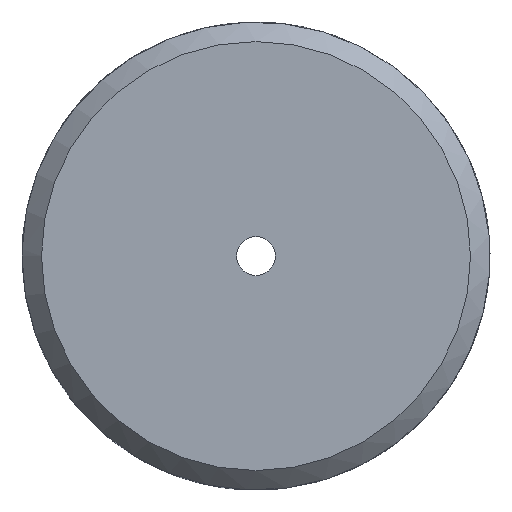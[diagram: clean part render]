
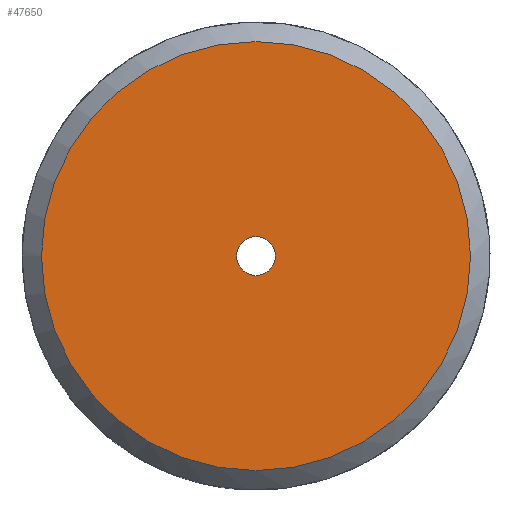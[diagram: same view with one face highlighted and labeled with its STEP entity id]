
A CAD part, left-side view. The second image highlights one B-rep face of the part: STEP entity #47650.
In plain terms, the highlighted planar face has unit normal (-1, 0, 0).
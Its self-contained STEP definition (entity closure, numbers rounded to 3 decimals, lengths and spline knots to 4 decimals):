
#13607=PLANE('',#47098);
#17559=ORIENTED_EDGE('',*,*,#20267,.T.);
#17560=ORIENTED_EDGE('',*,*,#20266,.F.);
#17961=CIRCLE('',#47097,0.5);
#17962=CIRCLE('',#47099,5.5);
#18908=VERTEX_POINT('',#46295);
#18909=VERTEX_POINT('',#46298);
#20266=EDGE_CURVE('',#18908,#18908,#17961,.T.);
#20267=EDGE_CURVE('',#18909,#18909,#17962,.T.);
#20685=EDGE_LOOP('',(#17559));
#20686=EDGE_LOOP('',(#17560));
#21106=FACE_BOUND('',#20685,.T.);
#21107=FACE_BOUND('',#20686,.T.);
#22698=DIRECTION('',(-1.,0.,0.));
#22699=DIRECTION('',(0.,0.,0.5));
#22700=DIRECTION('',(-1.,0.,0.));
#22701=DIRECTION('',(0.,1.,0.));
#22702=DIRECTION('',(-1.,0.,0.));
#22703=DIRECTION('',(0.,0.,-5.5));
#46295=CARTESIAN_POINT('',(44.5744,138.3459,0.5));
#46296=CARTESIAN_POINT('',(44.5744,138.3459,0.));
#46297=CARTESIAN_POINT('',(44.5744,138.3459,-5.5));
#46298=CARTESIAN_POINT('',(44.5744,138.3459,-5.5));
#46299=CARTESIAN_POINT('',(44.5744,138.3459,0.));
#47097=AXIS2_PLACEMENT_3D('',#46296,#22698,#22699);
#47098=AXIS2_PLACEMENT_3D('',#46297,#22700,#22701);
#47099=AXIS2_PLACEMENT_3D('',#46299,#22702,#22703);
#47650=ADVANCED_FACE('',(#21106,#21107),#13607,.T.);
